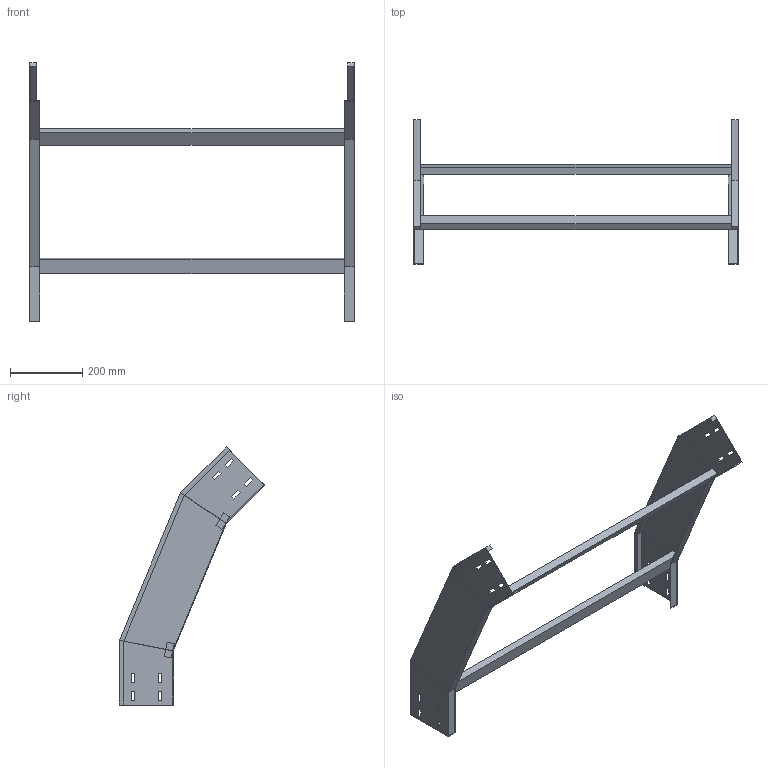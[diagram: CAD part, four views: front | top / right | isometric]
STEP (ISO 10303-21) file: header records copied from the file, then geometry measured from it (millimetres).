
FILE_DESCRIPTION (( 'STEP AP214' ), '1' );
FILE_NAME ('34J5F900.step', '2025-02-21T16:22:23', ( '' ), ( '' ), 'SwSTEP 2.0', 'SolidWorks 2023', '' );
FILE_SCHEMA (( 'AUTOMOTIVE_DESIGN' ));
Length unit declared in the file: millimetre
Products named in the file (3): LONGH.DISCESA_45°_H150_R500; 34J5F900; TRAVERSINO_900
Assembly tree (4 placements, depth 2):
  34J5F900
    LONGH.DISCESA_45°_H150_R500  x2
    TRAVERSINO_900  x2
Bounding box: 900 x 402.63 x 715.98 mm (x, y, z)
Volume: 2264572 mm3; surface area: 788185.9 mm2
Topology: 4 solids, 4 shells, 128 faces, 328 edges, 208 vertices
Faces by surface type: plane 128
Entity records: 2016 total; most frequent: CARTESIAN_POINT 339, ORIENTED_EDGE 328, DIRECTION 306, LINE 164, EDGE_CURVE 164, VECTOR 164, VERTEX_POINT 104, EDGE_LOOP 80
